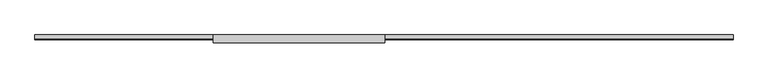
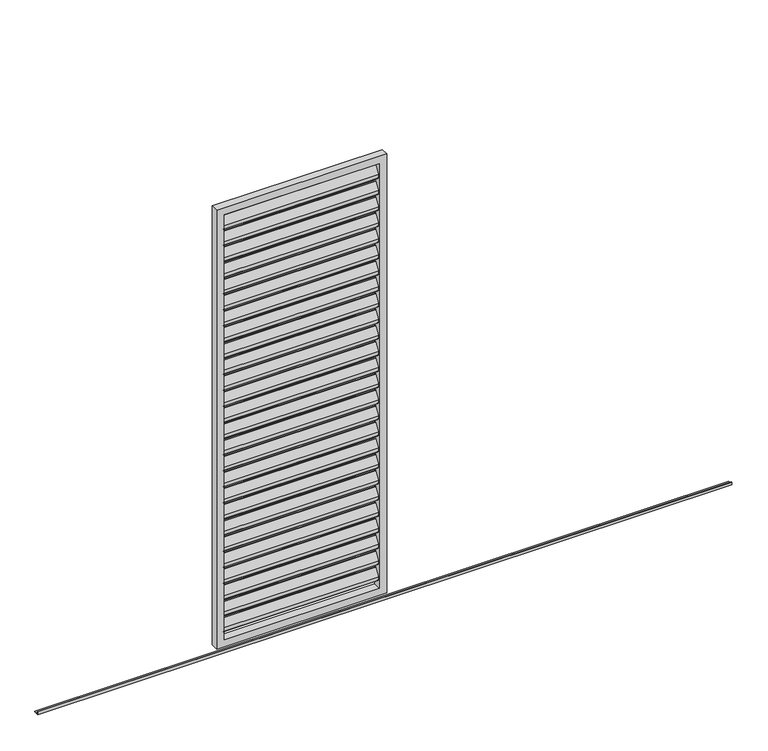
"""IFC4 building model written with IfcOpenShell, lengths in millimetres: proxy geometry, Renson_Amani_Loggia_Paro_Aluminium_Sliding : Renson_Amani_Loggia_Paro_Aluminium_Sliding."""

import ifcopenshell
import ifcopenshell.guid

model = None  # the IFC model being written
_history = None  # IfcOwnerHistory: only IFC2X3 demands one
_inside = {}  # id of a spatial element -> (the spatial element, [elements in it])
_under = {}  # id of a project, library or spatial element -> (it, [spatial elements below it])
_declared = {}  # id of a project -> (the project, [libraries it declares])
_typed = {}  # id of a type object -> (the type object, [elements of that type])
_made_of = {}  # id of a material, layer set ... -> (it, [elements and type objects made of it])


def new_model(schema):
    """Start an empty IFC model of exactly this schema.

    Asked for "IFC4X3", IfcOpenShell would pick the latest addendum, in which some entities
    have other attributes; the version numbers below select the first issue.
    IFC2X3 requires an IfcOwnerHistory on every rooted entity: one is made here for all.
    """
    global model, _history
    if schema == "IFC4X3":
        model = ifcopenshell.file(schema_version=(4, 3, 0, 0))
    else:
        model = ifcopenshell.file(schema=schema)
    _inside.clear()
    _under.clear()
    _declared.clear()
    _typed.clear()
    _made_of.clear()
    _history = None
    if model.schema == "IFC2X3":
        org = make("IfcOrganization", Name="unknown")
        user = make(
            "IfcPersonAndOrganization",
            ThePerson=make("IfcPerson", FamilyName="unknown"),
            TheOrganization=org,
        )
        app = make(
            "IfcApplication",
            ApplicationDeveloper=org,
            Version="unknown",
            ApplicationFullName="unknown",
            ApplicationIdentifier="unknown",
        )
        _history = make(
            "IfcOwnerHistory",
            OwningUser=user,
            OwningApplication=app,
            ChangeAction="ADDED",
            CreationDate=0,
        )
    return model


def make(cls, **values):
    """One entity of the class cls with the attributes given. An attribute that is None is left unset."""
    return model.create_entity(
        cls, **{name: value for name, value in values.items() if value is not None}
    )


def rooted(cls, **values):
    """An entity with a GlobalId (a new one), such as an element, a storey or a relation."""
    return make(cls, GlobalId=ifcopenshell.guid.new(), OwnerHistory=_history, **values)


def si_unit(unit_type, name, prefix=None):
    """IfcSIUnit, for example si_unit("LENGTHUNIT", "METRE", prefix="MILLI")."""
    return make("IfcSIUnit", UnitType=unit_type, Prefix=prefix, Name=name)


def assignment(units):
    """IfcUnitAssignment: the units of a project."""
    return None if units is None else make("IfcUnitAssignment", Units=units)


def point(xyz):
    """IfcCartesianPoint."""
    return None if xyz is None else make("IfcCartesianPoint", Coordinates=xyz)


def direction(xyz):
    """IfcDirection."""
    return None if xyz is None else make("IfcDirection", DirectionRatios=xyz)


def frame(location, z_axis=None, x_axis=None):
    """IfcAxis2Placement3D, a coordinate frame: its origin and axes. An axis left out is left unset."""
    return make(
        "IfcAxis2Placement3D",
        Location=point(location),
        Axis=direction(z_axis),
        RefDirection=direction(x_axis),
    )


def frame_2d(location, x_axis=None):
    """IfcAxis2Placement2D, a coordinate frame in the plane: its origin and x axis."""
    return make(
        "IfcAxis2Placement2D", Location=point(location), RefDirection=direction(x_axis)
    )


def origin():
    """The frame at (0, 0, 0) with its axes left unset."""
    return frame((0.0, 0.0, 0.0))


def place(relative_to, where):
    """IfcLocalPlacement: puts the frame where relative to a parent placement (None: the world)."""
    return make(
        "IfcLocalPlacement", PlacementRelTo=relative_to, RelativePlacement=where
    )


def context(
    kind, dimensions, precision=None, world=None, true_north=None, identifier=None
):
    """IfcGeometricRepresentationContext, for example the 3D "Model" context."""
    return make(
        "IfcGeometricRepresentationContext",
        ContextIdentifier=identifier,
        ContextType=kind,
        CoordinateSpaceDimension=dimensions,
        Precision=precision,
        WorldCoordinateSystem=world,
        TrueNorth=true_north,
    )


def project(units=None, contexts=None):
    """IfcProject with its units and contexts."""
    return rooted(
        "IfcProject",
        Name="project",
        RepresentationContexts=contexts,
        UnitsInContext=assignment(units),
    )


def spatial(cls, under=None, at=None, **own):
    """A site, building, storey or space (cls), placed at a placement, below another one or the project."""
    s = rooted(cls, ObjectPlacement=at, **own)
    if under is not None:
        _under.setdefault(under.id(), (under, []))[1].append(s)
    return s


def polyline(points):
    """IfcPolyline through the points."""
    return make("IfcPolyline", Points=[point(p) for p in points])


def circle_curve(where, radius):
    """IfcCircle in the frame where."""
    return make("IfcCircle", Position=where, Radius=radius)


def trimmed(basis, trim1, trim2, sense, master):
    """IfcTrimmedCurve: the piece of a basis curve between two trims."""
    return make(
        "IfcTrimmedCurve",
        BasisCurve=basis,
        Trim1=trim1,
        Trim2=trim2,
        SenseAgreement=sense,
        MasterRepresentation=master,
    )


def segment(curve, same_sense, transition):
    """IfcCompositeCurveSegment."""
    return make(
        "IfcCompositeCurveSegment",
        Transition=transition,
        SameSense=same_sense,
        ParentCurve=curve,
    )


def composite_curve(segments, self_intersect=None):
    """IfcCompositeCurve: segments joined end to end."""
    return make("IfcCompositeCurve", Segments=segments, SelfIntersect=self_intersect)


def outline(outer, holes=None, kind="AREA"):
    """IfcArbitraryClosedProfileDef: a profile drawn as a closed curve; with holes, ...WithVoids."""
    if holes is None:
        return make("IfcArbitraryClosedProfileDef", ProfileType=kind, OuterCurve=outer)
    return make(
        "IfcArbitraryProfileDefWithVoids",
        ProfileType=kind,
        OuterCurve=outer,
        InnerCurves=holes,
    )


def extrude(swept, where, along, depth):
    """IfcExtrudedAreaSolid: the profile swept, set in the frame where, extruded along a direction by depth."""
    return make(
        "IfcExtrudedAreaSolid",
        SweptArea=swept,
        Position=where,
        ExtrudedDirection=direction(along),
        Depth=depth,
    )


def shape(context_of_items, identifier, shape_type, items):
    """IfcShapeRepresentation: the items that make up one representation, for example the "Body"."""
    return make(
        "IfcShapeRepresentation",
        ContextOfItems=context_of_items,
        RepresentationIdentifier=identifier,
        RepresentationType=shape_type,
        Items=items,
    )


def source(mapping_origin, context_of_items, identifier, shape_type, items):
    """IfcRepresentationMap: a shape defined once, which mapped items show again and again."""
    return make(
        "IfcRepresentationMap",
        MappingOrigin=mapping_origin,
        MappedRepresentation=shape(context_of_items, identifier, shape_type, items),
    )


def transform(
    local_origin,
    x_axis=None,
    y_axis=None,
    z_axis=None,
    scale=None,
    scale2=None,
    scale3=None,
    uniform=True,
):
    """IfcCartesianTransformationOperator3D, or its non-uniform kind. x_axis, y_axis, z_axis: its Axis1, 2, 3."""
    if uniform:
        return make(
            "IfcCartesianTransformationOperator3D",
            Axis1=direction(x_axis),
            Axis2=direction(y_axis),
            LocalOrigin=point(local_origin),
            Scale=scale,
            Axis3=direction(z_axis),
        )
    return make(
        "IfcCartesianTransformationOperator3DnonUniform",
        Axis1=direction(x_axis),
        Axis2=direction(y_axis),
        LocalOrigin=point(local_origin),
        Scale=scale,
        Axis3=direction(z_axis),
        Scale2=scale2,
        Scale3=scale3,
    )


def mapped(mapping_source, mapping_target):
    """IfcMappedItem: shows the shape of a source again, moved by a transform."""
    return make(
        "IfcMappedItem", MappingSource=mapping_source, MappingTarget=mapping_target
    )


def made_of(thing, what):
    """Note that an element or type object is made of a material, layer set ...; save() writes the relation."""
    if what is not None:
        _made_of.setdefault(what.id(), (what, []))[1].append(thing)
    return thing


def element(
    cls,
    number,
    at=None,
    inside=None,
    cuts=None,
    type_object=None,
    material=None,
    context=None,
    identifier="Body",
    shape_type=None,
    held_by="IfcProductDefinitionShape",
    body=None,
    shapes=None,
    **own,
):
    """One element of the class cls, such as IfcWall. Its Tag is "e" and its number.

    at: its placement. inside: the storey or other place that contains it. cuts: it is an
    opening in that element (IfcRelVoidsElement). A single representation is given by context,
    identifier, shape_type and body (its items); several are given by shapes. held_by: the class
    of the entity that holds the representations. save() writes the other relations.
    """
    e = rooted(cls, Tag="e%d" % number, ObjectPlacement=at, **own)
    if body is not None:
        shapes = [shape(context, identifier, shape_type, body)]
    if shapes is not None:
        e.Representation = make(held_by, Representations=shapes)
    if inside is not None:
        _inside.setdefault(inside.id(), (inside, []))[1].append(e)
    if cuts is not None:
        rooted(
            "IfcRelVoidsElement", RelatingBuildingElement=cuts, RelatedOpeningElement=e
        )
    if type_object is not None:
        _typed.setdefault(type_object.id(), (type_object, []))[1].append(e)
    return made_of(e, material)


def aggregate(whole, parts):
    """IfcRelAggregates: a whole, such as a stair, and the parts it consists of."""
    return rooted("IfcRelAggregates", RelatingObject=whole, RelatedObjects=parts)


def save(model, path):
    """Write the relations noted so far, then the file.

    IfcRelAggregates (storeys below a building ...), IfcRelContainedInSpatialStructure (elements
    in a storey), IfcRelDefinesByType, IfcRelAssociatesMaterial and IfcRelDeclares: one each for
    every whole, place, type object, material and project.
    """
    for whole, parts in _under.values():
        aggregate(whole, parts)
    for where, things in _inside.values():
        rooted(
            "IfcRelContainedInSpatialStructure",
            RelatedElements=things,
            RelatingStructure=where,
        )
    for kind, things in _typed.values():
        rooted("IfcRelDefinesByType", RelatedObjects=things, RelatingType=kind)
    for what, things in _made_of.values():
        rooted("IfcRelAssociatesMaterial", RelatedObjects=things, RelatingMaterial=what)
    for by, libraries in _declared.values():
        rooted("IfcRelDeclares", RelatingContext=by, RelatedDefinitions=libraries)
    model.write(path)


def generic_models_31c1c7fc(model_context):
    return source(origin(), model_context, "Body", "SweptSolid", [
        extrude(outline(composite_curve([segment(trimmed(circle_curve(frame_2d((12.6675921, 2432.6587719)), 3.0), [point((10.1515804, 2434.292689))], [point((15.6675921, 2432.6587719))], False, "CARTESIAN"), True, "CONTINUOUS"), segment(polyline([(15.6675921, 2432.6587719), (15.6675921, 2414.2979873)]), True, "CONTINUOUS"), segment(trimmed(circle_curve(frame_2d((12.6675921, 2414.2979873)), 3.0), [point((15.6675921, 2414.2979873))], [point((15.1836038, 2412.6640702))], False, "CARTESIAN"), True, "CONTINUOUS"), segment(polyline([(15.1836038, 2412.6640702), (-8.8163962, 2375.707311)]), True, "CONTINUOUS"), segment(trimmed(circle_curve(frame_2d((-11.3324079, 2377.3412281)), 3.0), [point((-8.8163962, 2375.707311))], [point((-14.3324079, 2377.3412281))], False, "CARTESIAN"), True, "CONTINUOUS"), segment(polyline([(-14.3324079, 2377.3412281), (-14.3324079, 2396.5906532), (10.1515804, 2434.292689)]), True, "CONTINUOUS")], self_intersect=False)), frame((-410.0, 0.0, 0.0), z_axis=(1.0, 0.0, 0.0), x_axis=(0.0, 1.0, 0.0)), (0.0, 0.0, 1.0), 820.0),
        extrude(outline(composite_curve([segment(trimmed(circle_curve(frame_2d((12.6675921, 2342.6587719)), 3.0), [point((10.1515804, 2344.292689))], [point((15.6675921, 2342.6587719))], False, "CARTESIAN"), True, "CONTINUOUS"), segment(polyline([(15.6675921, 2342.6587719), (15.6675921, 2324.2979873)]), True, "CONTINUOUS"), segment(trimmed(circle_curve(frame_2d((12.6675921, 2324.2979873)), 3.0), [point((15.6675921, 2324.2979873))], [point((15.1836038, 2322.6640702))], False, "CARTESIAN"), True, "CONTINUOUS"), segment(polyline([(15.1836038, 2322.6640702), (-8.8163962, 2285.707311)]), True, "CONTINUOUS"), segment(trimmed(circle_curve(frame_2d((-11.3324079, 2287.3412281)), 3.0), [point((-8.8163962, 2285.707311))], [point((-14.3324079, 2287.3412281))], False, "CARTESIAN"), True, "CONTINUOUS"), segment(polyline([(-14.3324079, 2287.3412281), (-14.3324079, 2306.5906532), (10.1515804, 2344.292689)]), True, "CONTINUOUS")], self_intersect=False)), frame((-410.0, 0.0, 0.0), z_axis=(1.0, 0.0, 0.0), x_axis=(0.0, 1.0, 0.0)), (0.0, 0.0, 1.0), 820.0),
        extrude(outline(composite_curve([segment(trimmed(circle_curve(frame_2d((12.6675921, 2252.6587719)), 3.0), [point((10.1515804, 2254.292689))], [point((15.6675921, 2252.6587719))], False, "CARTESIAN"), True, "CONTINUOUS"), segment(polyline([(15.6675921, 2252.6587719), (15.6675921, 2234.2979873)]), True, "CONTINUOUS"), segment(trimmed(circle_curve(frame_2d((12.6675921, 2234.2979873)), 3.0), [point((15.6675921, 2234.2979873))], [point((15.1836038, 2232.6640702))], False, "CARTESIAN"), True, "CONTINUOUS"), segment(polyline([(15.1836038, 2232.6640702), (-8.8163962, 2195.707311)]), True, "CONTINUOUS"), segment(trimmed(circle_curve(frame_2d((-11.3324079, 2197.3412281)), 3.0), [point((-8.8163962, 2195.707311))], [point((-14.3324079, 2197.3412281))], False, "CARTESIAN"), True, "CONTINUOUS"), segment(polyline([(-14.3324079, 2197.3412281), (-14.3324079, 2216.5906532), (10.1515804, 2254.292689)]), True, "CONTINUOUS")], self_intersect=False)), frame((-410.0, 0.0, 0.0), z_axis=(1.0, 0.0, 0.0), x_axis=(0.0, 1.0, 0.0)), (0.0, 0.0, 1.0), 820.0),
        extrude(outline(composite_curve([segment(trimmed(circle_curve(frame_2d((12.6675921, 2162.6587719)), 3.0), [point((10.1515804, 2164.292689))], [point((15.6675921, 2162.6587719))], False, "CARTESIAN"), True, "CONTINUOUS"), segment(polyline([(15.6675921, 2162.6587719), (15.6675921, 2144.2979873)]), True, "CONTINUOUS"), segment(trimmed(circle_curve(frame_2d((12.6675921, 2144.2979873)), 3.0), [point((15.6675921, 2144.2979873))], [point((15.1836038, 2142.6640702))], False, "CARTESIAN"), True, "CONTINUOUS"), segment(polyline([(15.1836038, 2142.6640702), (-8.8163962, 2105.707311)]), True, "CONTINUOUS"), segment(trimmed(circle_curve(frame_2d((-11.3324079, 2107.3412281)), 3.0), [point((-8.8163962, 2105.707311))], [point((-14.3324079, 2107.3412281))], False, "CARTESIAN"), True, "CONTINUOUS"), segment(polyline([(-14.3324079, 2107.3412281), (-14.3324079, 2126.5906532), (10.1515804, 2164.292689)]), True, "CONTINUOUS")], self_intersect=False)), frame((-410.0, 0.0, 0.0), z_axis=(1.0, 0.0, 0.0), x_axis=(0.0, 1.0, 0.0)), (0.0, 0.0, 1.0), 820.0),
        extrude(outline(composite_curve([segment(trimmed(circle_curve(frame_2d((12.6675921, 2072.6587719)), 3.0), [point((10.1515804, 2074.292689))], [point((15.6675921, 2072.6587719))], False, "CARTESIAN"), True, "CONTINUOUS"), segment(polyline([(15.6675921, 2072.6587719), (15.6675921, 2054.2979873)]), True, "CONTINUOUS"), segment(trimmed(circle_curve(frame_2d((12.6675921, 2054.2979873)), 3.0), [point((15.6675921, 2054.2979873))], [point((15.1836038, 2052.6640702))], False, "CARTESIAN"), True, "CONTINUOUS"), segment(polyline([(15.1836038, 2052.6640702), (-8.8163962, 2015.707311)]), True, "CONTINUOUS"), segment(trimmed(circle_curve(frame_2d((-11.3324079, 2017.3412281)), 3.0), [point((-8.8163962, 2015.707311))], [point((-14.3324079, 2017.3412281))], False, "CARTESIAN"), True, "CONTINUOUS"), segment(polyline([(-14.3324079, 2017.3412281), (-14.3324079, 2036.5906532), (10.1515804, 2074.292689)]), True, "CONTINUOUS")], self_intersect=False)), frame((-410.0, 0.0, 0.0), z_axis=(1.0, 0.0, 0.0), x_axis=(0.0, 1.0, 0.0)), (0.0, 0.0, 1.0), 820.0),
        extrude(outline(composite_curve([segment(trimmed(circle_curve(frame_2d((12.6675921, 1982.6587719)), 3.0), [point((10.1515804, 1984.292689))], [point((15.6675921, 1982.6587719))], False, "CARTESIAN"), True, "CONTINUOUS"), segment(polyline([(15.6675921, 1982.6587719), (15.6675921, 1964.2979873)]), True, "CONTINUOUS"), segment(trimmed(circle_curve(frame_2d((12.6675921, 1964.2979873)), 3.0), [point((15.6675921, 1964.2979873))], [point((15.1836038, 1962.6640702))], False, "CARTESIAN"), True, "CONTINUOUS"), segment(polyline([(15.1836038, 1962.6640702), (-8.8163962, 1925.707311)]), True, "CONTINUOUS"), segment(trimmed(circle_curve(frame_2d((-11.3324079, 1927.3412281)), 3.0), [point((-8.8163962, 1925.707311))], [point((-14.3324079, 1927.3412281))], False, "CARTESIAN"), True, "CONTINUOUS"), segment(polyline([(-14.3324079, 1927.3412281), (-14.3324079, 1946.5906532), (10.1515804, 1984.292689)]), True, "CONTINUOUS")], self_intersect=False)), frame((-410.0, 0.0, 0.0), z_axis=(1.0, 0.0, 0.0), x_axis=(0.0, 1.0, 0.0)), (0.0, 0.0, 1.0), 820.0),
        extrude(outline(composite_curve([segment(trimmed(circle_curve(frame_2d((12.6675921, 1892.6587719)), 3.0), [point((10.1515804, 1894.292689))], [point((15.6675921, 1892.6587719))], False, "CARTESIAN"), True, "CONTINUOUS"), segment(polyline([(15.6675921, 1892.6587719), (15.6675921, 1874.2979873)]), True, "CONTINUOUS"), segment(trimmed(circle_curve(frame_2d((12.6675921, 1874.2979873)), 3.0), [point((15.6675921, 1874.2979873))], [point((15.1836038, 1872.6640702))], False, "CARTESIAN"), True, "CONTINUOUS"), segment(polyline([(15.1836038, 1872.6640702), (-8.8163962, 1835.707311)]), True, "CONTINUOUS"), segment(trimmed(circle_curve(frame_2d((-11.3324079, 1837.3412281)), 3.0), [point((-8.8163962, 1835.707311))], [point((-14.3324079, 1837.3412281))], False, "CARTESIAN"), True, "CONTINUOUS"), segment(polyline([(-14.3324079, 1837.3412281), (-14.3324079, 1856.5906532), (10.1515804, 1894.292689)]), True, "CONTINUOUS")], self_intersect=False)), frame((-410.0, 0.0, 0.0), z_axis=(1.0, 0.0, 0.0), x_axis=(0.0, 1.0, 0.0)), (0.0, 0.0, 1.0), 820.0),
        extrude(outline(composite_curve([segment(trimmed(circle_curve(frame_2d((12.6675921, 1802.6587719)), 3.0), [point((10.1515804, 1804.292689))], [point((15.6675921, 1802.6587719))], False, "CARTESIAN"), True, "CONTINUOUS"), segment(polyline([(15.6675921, 1802.6587719), (15.6675921, 1784.2979873)]), True, "CONTINUOUS"), segment(trimmed(circle_curve(frame_2d((12.6675921, 1784.2979873)), 3.0), [point((15.6675921, 1784.2979873))], [point((15.1836038, 1782.6640702))], False, "CARTESIAN"), True, "CONTINUOUS"), segment(polyline([(15.1836038, 1782.6640702), (-8.8163962, 1745.707311)]), True, "CONTINUOUS"), segment(trimmed(circle_curve(frame_2d((-11.3324079, 1747.3412281)), 3.0), [point((-8.8163962, 1745.707311))], [point((-14.3324079, 1747.3412281))], False, "CARTESIAN"), True, "CONTINUOUS"), segment(polyline([(-14.3324079, 1747.3412281), (-14.3324079, 1766.5906532), (10.1515804, 1804.292689)]), True, "CONTINUOUS")], self_intersect=False)), frame((-410.0, 0.0, 0.0), z_axis=(1.0, 0.0, 0.0), x_axis=(0.0, 1.0, 0.0)), (0.0, 0.0, 1.0), 820.0),
        extrude(outline(composite_curve([segment(trimmed(circle_curve(frame_2d((12.6675921, 1712.6587719)), 3.0), [point((10.1515804, 1714.292689))], [point((15.6675921, 1712.6587719))], False, "CARTESIAN"), True, "CONTINUOUS"), segment(polyline([(15.6675921, 1712.6587719), (15.6675921, 1694.2979873)]), True, "CONTINUOUS"), segment(trimmed(circle_curve(frame_2d((12.6675921, 1694.2979873)), 3.0), [point((15.6675921, 1694.2979873))], [point((15.1836038, 1692.6640702))], False, "CARTESIAN"), True, "CONTINUOUS"), segment(polyline([(15.1836038, 1692.6640702), (-8.8163962, 1655.707311)]), True, "CONTINUOUS"), segment(trimmed(circle_curve(frame_2d((-11.3324079, 1657.3412281)), 3.0), [point((-8.8163962, 1655.707311))], [point((-14.3324079, 1657.3412281))], False, "CARTESIAN"), True, "CONTINUOUS"), segment(polyline([(-14.3324079, 1657.3412281), (-14.3324079, 1676.5906532), (10.1515804, 1714.292689)]), True, "CONTINUOUS")], self_intersect=False)), frame((-410.0, 0.0, 0.0), z_axis=(1.0, 0.0, 0.0), x_axis=(0.0, 1.0, 0.0)), (0.0, 0.0, 1.0), 820.0),
        extrude(outline(composite_curve([segment(trimmed(circle_curve(frame_2d((12.6675921, 1622.6587719)), 3.0), [point((10.1515804, 1624.292689))], [point((15.6675921, 1622.6587719))], False, "CARTESIAN"), True, "CONTINUOUS"), segment(polyline([(15.6675921, 1622.6587719), (15.6675921, 1604.2979873)]), True, "CONTINUOUS"), segment(trimmed(circle_curve(frame_2d((12.6675921, 1604.2979873)), 3.0), [point((15.6675921, 1604.2979873))], [point((15.1836038, 1602.6640702))], False, "CARTESIAN"), True, "CONTINUOUS"), segment(polyline([(15.1836038, 1602.6640702), (-8.8163962, 1565.707311)]), True, "CONTINUOUS"), segment(trimmed(circle_curve(frame_2d((-11.3324079, 1567.3412281)), 3.0), [point((-8.8163962, 1565.707311))], [point((-14.3324079, 1567.3412281))], False, "CARTESIAN"), True, "CONTINUOUS"), segment(polyline([(-14.3324079, 1567.3412281), (-14.3324079, 1586.5906532), (10.1515804, 1624.292689)]), True, "CONTINUOUS")], self_intersect=False)), frame((-410.0, 0.0, 0.0), z_axis=(1.0, 0.0, 0.0), x_axis=(0.0, 1.0, 0.0)), (0.0, 0.0, 1.0), 820.0),
        extrude(outline(composite_curve([segment(trimmed(circle_curve(frame_2d((12.6675921, 1532.6587719)), 3.0), [point((10.1515804, 1534.292689))], [point((15.6675921, 1532.6587719))], False, "CARTESIAN"), True, "CONTINUOUS"), segment(polyline([(15.6675921, 1532.6587719), (15.6675921, 1514.2979873)]), True, "CONTINUOUS"), segment(trimmed(circle_curve(frame_2d((12.6675921, 1514.2979873)), 3.0), [point((15.6675921, 1514.2979873))], [point((15.1836038, 1512.6640702))], False, "CARTESIAN"), True, "CONTINUOUS"), segment(polyline([(15.1836038, 1512.6640702), (-8.8163962, 1475.707311)]), True, "CONTINUOUS"), segment(trimmed(circle_curve(frame_2d((-11.3324079, 1477.3412281)), 3.0), [point((-8.8163962, 1475.707311))], [point((-14.3324079, 1477.3412281))], False, "CARTESIAN"), True, "CONTINUOUS"), segment(polyline([(-14.3324079, 1477.3412281), (-14.3324079, 1496.5906532), (10.1515804, 1534.292689)]), True, "CONTINUOUS")], self_intersect=False)), frame((-410.0, 0.0, 0.0), z_axis=(1.0, 0.0, 0.0), x_axis=(0.0, 1.0, 0.0)), (0.0, 0.0, 1.0), 820.0),
        extrude(outline(composite_curve([segment(trimmed(circle_curve(frame_2d((12.6675921, 1442.6587719)), 3.0), [point((10.1515804, 1444.292689))], [point((15.6675921, 1442.6587719))], False, "CARTESIAN"), True, "CONTINUOUS"), segment(polyline([(15.6675921, 1442.6587719), (15.6675921, 1424.2979873)]), True, "CONTINUOUS"), segment(trimmed(circle_curve(frame_2d((12.6675921, 1424.2979873)), 3.0), [point((15.6675921, 1424.2979873))], [point((15.1836038, 1422.6640702))], False, "CARTESIAN"), True, "CONTINUOUS"), segment(polyline([(15.1836038, 1422.6640702), (-8.8163962, 1385.707311)]), True, "CONTINUOUS"), segment(trimmed(circle_curve(frame_2d((-11.3324079, 1387.3412281)), 3.0), [point((-8.8163962, 1385.707311))], [point((-14.3324079, 1387.3412281))], False, "CARTESIAN"), True, "CONTINUOUS"), segment(polyline([(-14.3324079, 1387.3412281), (-14.3324079, 1406.5906532), (10.1515804, 1444.292689)]), True, "CONTINUOUS")], self_intersect=False)), frame((-410.0, 0.0, 0.0), z_axis=(1.0, 0.0, 0.0), x_axis=(0.0, 1.0, 0.0)), (0.0, 0.0, 1.0), 820.0),
        extrude(outline(composite_curve([segment(trimmed(circle_curve(frame_2d((12.6675921, 1352.6587719)), 3.0), [point((10.1515804, 1354.292689))], [point((15.6675921, 1352.6587719))], False, "CARTESIAN"), True, "CONTINUOUS"), segment(polyline([(15.6675921, 1352.6587719), (15.6675921, 1334.2979873)]), True, "CONTINUOUS"), segment(trimmed(circle_curve(frame_2d((12.6675921, 1334.2979873)), 3.0), [point((15.6675921, 1334.2979873))], [point((15.1836038, 1332.6640702))], False, "CARTESIAN"), True, "CONTINUOUS"), segment(polyline([(15.1836038, 1332.6640702), (-8.8163962, 1295.707311)]), True, "CONTINUOUS"), segment(trimmed(circle_curve(frame_2d((-11.3324079, 1297.3412281)), 3.0), [point((-8.8163962, 1295.707311))], [point((-14.3324079, 1297.3412281))], False, "CARTESIAN"), True, "CONTINUOUS"), segment(polyline([(-14.3324079, 1297.3412281), (-14.3324079, 1316.5906532), (10.1515804, 1354.292689)]), True, "CONTINUOUS")], self_intersect=False)), frame((-410.0, 0.0, 0.0), z_axis=(1.0, 0.0, 0.0), x_axis=(0.0, 1.0, 0.0)), (0.0, 0.0, 1.0), 820.0),
        extrude(outline(composite_curve([segment(trimmed(circle_curve(frame_2d((12.6675921, 1262.6587719)), 3.0), [point((10.1515804, 1264.292689))], [point((15.6675921, 1262.6587719))], False, "CARTESIAN"), True, "CONTINUOUS"), segment(polyline([(15.6675921, 1262.6587719), (15.6675921, 1244.2979873)]), True, "CONTINUOUS"), segment(trimmed(circle_curve(frame_2d((12.6675921, 1244.2979873)), 3.0), [point((15.6675921, 1244.2979873))], [point((15.1836038, 1242.6640702))], False, "CARTESIAN"), True, "CONTINUOUS"), segment(polyline([(15.1836038, 1242.6640702), (-8.8163962, 1205.707311)]), True, "CONTINUOUS"), segment(trimmed(circle_curve(frame_2d((-11.3324079, 1207.3412281)), 3.0), [point((-8.8163962, 1205.707311))], [point((-14.3324079, 1207.3412281))], False, "CARTESIAN"), True, "CONTINUOUS"), segment(polyline([(-14.3324079, 1207.3412281), (-14.3324079, 1226.5906532), (10.1515804, 1264.292689)]), True, "CONTINUOUS")], self_intersect=False)), frame((-410.0, 0.0, 0.0), z_axis=(1.0, 0.0, 0.0), x_axis=(0.0, 1.0, 0.0)), (0.0, 0.0, 1.0), 820.0),
        extrude(outline(composite_curve([segment(trimmed(circle_curve(frame_2d((12.6675921, 1172.6587719)), 3.0), [point((10.1515804, 1174.292689))], [point((15.6675921, 1172.6587719))], False, "CARTESIAN"), True, "CONTINUOUS"), segment(polyline([(15.6675921, 1172.6587719), (15.6675921, 1154.2979873)]), True, "CONTINUOUS"), segment(trimmed(circle_curve(frame_2d((12.6675921, 1154.2979873)), 3.0), [point((15.6675921, 1154.2979873))], [point((15.1836038, 1152.6640702))], False, "CARTESIAN"), True, "CONTINUOUS"), segment(polyline([(15.1836038, 1152.6640702), (-8.8163962, 1115.707311)]), True, "CONTINUOUS"), segment(trimmed(circle_curve(frame_2d((-11.3324079, 1117.3412281)), 3.0), [point((-8.8163962, 1115.707311))], [point((-14.3324079, 1117.3412281))], False, "CARTESIAN"), True, "CONTINUOUS"), segment(polyline([(-14.3324079, 1117.3412281), (-14.3324079, 1136.5906532), (10.1515804, 1174.292689)]), True, "CONTINUOUS")], self_intersect=False)), frame((-410.0, 0.0, 0.0), z_axis=(1.0, 0.0, 0.0), x_axis=(0.0, 1.0, 0.0)), (0.0, 0.0, 1.0), 820.0),
        extrude(outline(composite_curve([segment(trimmed(circle_curve(frame_2d((12.6675921, 1082.6587719)), 3.0), [point((10.1515804, 1084.292689))], [point((15.6675921, 1082.6587719))], False, "CARTESIAN"), True, "CONTINUOUS"), segment(polyline([(15.6675921, 1082.6587719), (15.6675921, 1064.2979873)]), True, "CONTINUOUS"), segment(trimmed(circle_curve(frame_2d((12.6675921, 1064.2979873)), 3.0), [point((15.6675921, 1064.2979873))], [point((15.1836038, 1062.6640702))], False, "CARTESIAN"), True, "CONTINUOUS"), segment(polyline([(15.1836038, 1062.6640702), (-8.8163962, 1025.707311)]), True, "CONTINUOUS"), segment(trimmed(circle_curve(frame_2d((-11.3324079, 1027.3412281)), 3.0), [point((-8.8163962, 1025.707311))], [point((-14.3324079, 1027.3412281))], False, "CARTESIAN"), True, "CONTINUOUS"), segment(polyline([(-14.3324079, 1027.3412281), (-14.3324079, 1046.5906532), (10.1515804, 1084.292689)]), True, "CONTINUOUS")], self_intersect=False)), frame((-410.0, 0.0, 0.0), z_axis=(1.0, 0.0, 0.0), x_axis=(0.0, 1.0, 0.0)), (0.0, 0.0, 1.0), 820.0),
        extrude(outline(composite_curve([segment(trimmed(circle_curve(frame_2d((12.6675921, 992.6587719)), 3.0), [point((10.1515804, 994.292689))], [point((15.6675921, 992.6587719))], False, "CARTESIAN"), True, "CONTINUOUS"), segment(polyline([(15.6675921, 992.6587719), (15.6675921, 974.2979873)]), True, "CONTINUOUS"), segment(trimmed(circle_curve(frame_2d((12.6675921, 974.2979873)), 3.0), [point((15.6675921, 974.2979873))], [point((15.1836038, 972.6640702))], False, "CARTESIAN"), True, "CONTINUOUS"), segment(polyline([(15.1836038, 972.6640702), (-8.8163962, 935.707311)]), True, "CONTINUOUS"), segment(trimmed(circle_curve(frame_2d((-11.3324079, 937.3412281)), 3.0), [point((-8.8163962, 935.707311))], [point((-14.3324079, 937.3412281))], False, "CARTESIAN"), True, "CONTINUOUS"), segment(polyline([(-14.3324079, 937.3412281), (-14.3324079, 956.5906532), (10.1515804, 994.292689)]), True, "CONTINUOUS")], self_intersect=False)), frame((-410.0, 0.0, 0.0), z_axis=(1.0, 0.0, 0.0), x_axis=(0.0, 1.0, 0.0)), (0.0, 0.0, 1.0), 820.0),
        extrude(outline(composite_curve([segment(trimmed(circle_curve(frame_2d((12.6675921, 902.6587719)), 3.0), [point((10.1515804, 904.292689))], [point((15.6675921, 902.6587719))], False, "CARTESIAN"), True, "CONTINUOUS"), segment(polyline([(15.6675921, 902.6587719), (15.6675921, 884.2979873)]), True, "CONTINUOUS"), segment(trimmed(circle_curve(frame_2d((12.6675921, 884.2979873)), 3.0), [point((15.6675921, 884.2979873))], [point((15.1836038, 882.6640702))], False, "CARTESIAN"), True, "CONTINUOUS"), segment(polyline([(15.1836038, 882.6640702), (-8.8163962, 845.707311)]), True, "CONTINUOUS"), segment(trimmed(circle_curve(frame_2d((-11.3324079, 847.3412281)), 3.0), [point((-8.8163962, 845.707311))], [point((-14.3324079, 847.3412281))], False, "CARTESIAN"), True, "CONTINUOUS"), segment(polyline([(-14.3324079, 847.3412281), (-14.3324079, 866.5906532), (10.1515804, 904.292689)]), True, "CONTINUOUS")], self_intersect=False)), frame((-410.0, 0.0, 0.0), z_axis=(1.0, 0.0, 0.0), x_axis=(0.0, 1.0, 0.0)), (0.0, 0.0, 1.0), 820.0),
        extrude(outline(composite_curve([segment(trimmed(circle_curve(frame_2d((12.6675921, 812.6587719)), 3.0), [point((10.1515804, 814.292689))], [point((15.6675921, 812.6587719))], False, "CARTESIAN"), True, "CONTINUOUS"), segment(polyline([(15.6675921, 812.6587719), (15.6675921, 794.2979873)]), True, "CONTINUOUS"), segment(trimmed(circle_curve(frame_2d((12.6675921, 794.2979873)), 3.0), [point((15.6675921, 794.2979873))], [point((15.1836038, 792.6640702))], False, "CARTESIAN"), True, "CONTINUOUS"), segment(polyline([(15.1836038, 792.6640702), (-8.8163962, 755.707311)]), True, "CONTINUOUS"), segment(trimmed(circle_curve(frame_2d((-11.3324079, 757.3412281)), 3.0), [point((-8.8163962, 755.707311))], [point((-14.3324079, 757.3412281))], False, "CARTESIAN"), True, "CONTINUOUS"), segment(polyline([(-14.3324079, 757.3412281), (-14.3324079, 776.5906532), (10.1515804, 814.292689)]), True, "CONTINUOUS")], self_intersect=False)), frame((-410.0, 0.0, 0.0), z_axis=(1.0, 0.0, 0.0), x_axis=(0.0, 1.0, 0.0)), (0.0, 0.0, 1.0), 820.0),
        extrude(outline(composite_curve([segment(trimmed(circle_curve(frame_2d((12.6675921, 722.6587719)), 3.0), [point((10.1515804, 724.292689))], [point((15.6675921, 722.6587719))], False, "CARTESIAN"), True, "CONTINUOUS"), segment(polyline([(15.6675921, 722.6587719), (15.6675921, 704.2979873)]), True, "CONTINUOUS"), segment(trimmed(circle_curve(frame_2d((12.6675921, 704.2979873)), 3.0), [point((15.6675921, 704.2979873))], [point((15.1836038, 702.6640702))], False, "CARTESIAN"), True, "CONTINUOUS"), segment(polyline([(15.1836038, 702.6640702), (-8.8163962, 665.707311)]), True, "CONTINUOUS"), segment(trimmed(circle_curve(frame_2d((-11.3324079, 667.3412281)), 3.0), [point((-8.8163962, 665.707311))], [point((-14.3324079, 667.3412281))], False, "CARTESIAN"), True, "CONTINUOUS"), segment(polyline([(-14.3324079, 667.3412281), (-14.3324079, 686.5906532), (10.1515804, 724.292689)]), True, "CONTINUOUS")], self_intersect=False)), frame((-410.0, 0.0, 0.0), z_axis=(1.0, 0.0, 0.0), x_axis=(0.0, 1.0, 0.0)), (0.0, 0.0, 1.0), 820.0),
        extrude(outline(composite_curve([segment(trimmed(circle_curve(frame_2d((12.6675921, 632.6587719)), 3.0), [point((10.1515804, 634.292689))], [point((15.6675921, 632.6587719))], False, "CARTESIAN"), True, "CONTINUOUS"), segment(polyline([(15.6675921, 632.6587719), (15.6675921, 614.2979873)]), True, "CONTINUOUS"), segment(trimmed(circle_curve(frame_2d((12.6675921, 614.2979873)), 3.0), [point((15.6675921, 614.2979873))], [point((15.1836038, 612.6640702))], False, "CARTESIAN"), True, "CONTINUOUS"), segment(polyline([(15.1836038, 612.6640702), (-8.8163962, 575.707311)]), True, "CONTINUOUS"), segment(trimmed(circle_curve(frame_2d((-11.3324079, 577.3412281)), 3.0), [point((-8.8163962, 575.707311))], [point((-14.3324079, 577.3412281))], False, "CARTESIAN"), True, "CONTINUOUS"), segment(polyline([(-14.3324079, 577.3412281), (-14.3324079, 596.5906532), (10.1515804, 634.292689)]), True, "CONTINUOUS")], self_intersect=False)), frame((-410.0, 0.0, 0.0), z_axis=(1.0, 0.0, 0.0), x_axis=(0.0, 1.0, 0.0)), (0.0, 0.0, 1.0), 820.0),
        extrude(outline(composite_curve([segment(trimmed(circle_curve(frame_2d((12.6675921, 542.6587719)), 3.0), [point((10.1515804, 544.292689))], [point((15.6675921, 542.6587719))], False, "CARTESIAN"), True, "CONTINUOUS"), segment(polyline([(15.6675921, 542.6587719), (15.6675921, 524.2979873)]), True, "CONTINUOUS"), segment(trimmed(circle_curve(frame_2d((12.6675921, 524.2979873)), 3.0), [point((15.6675921, 524.2979873))], [point((15.1836038, 522.6640702))], False, "CARTESIAN"), True, "CONTINUOUS"), segment(polyline([(15.1836038, 522.6640702), (-8.8163962, 485.707311)]), True, "CONTINUOUS"), segment(trimmed(circle_curve(frame_2d((-11.3324079, 487.3412281)), 3.0), [point((-8.8163962, 485.707311))], [point((-14.3324079, 487.3412281))], False, "CARTESIAN"), True, "CONTINUOUS"), segment(polyline([(-14.3324079, 487.3412281), (-14.3324079, 506.5906532), (10.1515804, 544.292689)]), True, "CONTINUOUS")], self_intersect=False)), frame((-410.0, 0.0, 0.0), z_axis=(1.0, 0.0, 0.0), x_axis=(0.0, 1.0, 0.0)), (0.0, 0.0, 1.0), 820.0),
        extrude(outline(composite_curve([segment(trimmed(circle_curve(frame_2d((12.6675921, 452.6587719)), 3.0), [point((10.1515804, 454.292689))], [point((15.6675921, 452.6587719))], False, "CARTESIAN"), True, "CONTINUOUS"), segment(polyline([(15.6675921, 452.6587719), (15.6675921, 434.2979873)]), True, "CONTINUOUS"), segment(trimmed(circle_curve(frame_2d((12.6675921, 434.2979873)), 3.0), [point((15.6675921, 434.2979873))], [point((15.1836038, 432.6640702))], False, "CARTESIAN"), True, "CONTINUOUS"), segment(polyline([(15.1836038, 432.6640702), (-8.8163962, 395.707311)]), True, "CONTINUOUS"), segment(trimmed(circle_curve(frame_2d((-11.3324079, 397.3412281)), 3.0), [point((-8.8163962, 395.707311))], [point((-14.3324079, 397.3412281))], False, "CARTESIAN"), True, "CONTINUOUS"), segment(polyline([(-14.3324079, 397.3412281), (-14.3324079, 416.5906532), (10.1515804, 454.292689)]), True, "CONTINUOUS")], self_intersect=False)), frame((-410.0, 0.0, 0.0), z_axis=(1.0, 0.0, 0.0), x_axis=(0.0, 1.0, 0.0)), (0.0, 0.0, 1.0), 820.0),
        extrude(outline(composite_curve([segment(trimmed(circle_curve(frame_2d((12.6675921, 362.6587719)), 3.0), [point((10.1515804, 364.292689))], [point((15.6675921, 362.6587719))], False, "CARTESIAN"), True, "CONTINUOUS"), segment(polyline([(15.6675921, 362.6587719), (15.6675921, 344.2979873)]), True, "CONTINUOUS"), segment(trimmed(circle_curve(frame_2d((12.6675921, 344.2979873)), 3.0), [point((15.6675921, 344.2979873))], [point((15.1836038, 342.6640702))], False, "CARTESIAN"), True, "CONTINUOUS"), segment(polyline([(15.1836038, 342.6640702), (-8.8163962, 305.707311)]), True, "CONTINUOUS"), segment(trimmed(circle_curve(frame_2d((-11.3324079, 307.3412281)), 3.0), [point((-8.8163962, 305.707311))], [point((-14.3324079, 307.3412281))], False, "CARTESIAN"), True, "CONTINUOUS"), segment(polyline([(-14.3324079, 307.3412281), (-14.3324079, 326.5906532), (10.1515804, 364.292689)]), True, "CONTINUOUS")], self_intersect=False)), frame((-410.0, 0.0, 0.0), z_axis=(1.0, 0.0, 0.0), x_axis=(0.0, 1.0, 0.0)), (0.0, 0.0, 1.0), 820.0),
        extrude(outline(composite_curve([segment(trimmed(circle_curve(frame_2d((12.6675921, 272.6587719)), 3.0), [point((10.1515804, 274.292689))], [point((15.6675921, 272.6587719))], False, "CARTESIAN"), True, "CONTINUOUS"), segment(polyline([(15.6675921, 272.6587719), (15.6675921, 254.2979873)]), True, "CONTINUOUS"), segment(trimmed(circle_curve(frame_2d((12.6675921, 254.2979873)), 3.0), [point((15.6675921, 254.2979873))], [point((15.1836038, 252.6640702))], False, "CARTESIAN"), True, "CONTINUOUS"), segment(polyline([(15.1836038, 252.6640702), (-8.8163962, 215.707311)]), True, "CONTINUOUS"), segment(trimmed(circle_curve(frame_2d((-11.3324079, 217.3412281)), 3.0), [point((-8.8163962, 215.707311))], [point((-14.3324079, 217.3412281))], False, "CARTESIAN"), True, "CONTINUOUS"), segment(polyline([(-14.3324079, 217.3412281), (-14.3324079, 236.5906532), (10.1515804, 274.292689)]), True, "CONTINUOUS")], self_intersect=False)), frame((-410.0, 0.0, 0.0), z_axis=(1.0, 0.0, 0.0), x_axis=(0.0, 1.0, 0.0)), (0.0, 0.0, 1.0), 820.0),
        extrude(outline(composite_curve([segment(trimmed(circle_curve(frame_2d((12.6675921, 182.6587719)), 3.0), [point((10.1515804, 184.292689))], [point((15.6675921, 182.6587719))], False, "CARTESIAN"), True, "CONTINUOUS"), segment(polyline([(15.6675921, 182.6587719), (15.6675921, 164.2979873)]), True, "CONTINUOUS"), segment(trimmed(circle_curve(frame_2d((12.6675921, 164.2979873)), 3.0), [point((15.6675921, 164.2979873))], [point((15.1836038, 162.6640702))], False, "CARTESIAN"), True, "CONTINUOUS"), segment(polyline([(15.1836038, 162.6640702), (-8.8163962, 125.707311)]), True, "CONTINUOUS"), segment(trimmed(circle_curve(frame_2d((-11.3324079, 127.3412281)), 3.0), [point((-8.8163962, 125.707311))], [point((-14.3324079, 127.3412281))], False, "CARTESIAN"), True, "CONTINUOUS"), segment(polyline([(-14.3324079, 127.3412281), (-14.3324079, 146.5906532), (10.1515804, 184.292689)]), True, "CONTINUOUS")], self_intersect=False)), frame((-410.0, 0.0, 0.0), z_axis=(1.0, 0.0, 0.0), x_axis=(0.0, 1.0, 0.0)), (0.0, 0.0, 1.0), 820.0),
        extrude(outline(polyline([(-6.0, 15.0), (-3.0, 15.0), (-3.0, 3.0), (20.0, 3.0), (20.0, 0.0), (-6.0, 0.0), (-6.0, 15.0)])), frame((-1388.0510676, 0.0, 0.0), z_axis=(1.0, 0.0, 0.0), x_axis=(0.0, 1.0, 0.0)), (0.0, 0.0, 1.0), 3670.0),
        extrude(outline(polyline([(2500.0, -450.0), (45.0, -450.0), (45.0, 450.0), (2500.0, 450.0), (2500.0, -450.0)]), holes=[polyline([(2460.0, 410.0), (85.0, 410.0), (85.0, -410.0), (2460.0, -410.0), (2460.0, 410.0)])]), frame((0.0, -20.0, 0.0), z_axis=(0.0, 1.0, 0.0), x_axis=(0.0, 0.0, 1.0)), (0.0, 0.0, 1.0), 40.0),
    ])


if __name__ == "__main__":
    model = new_model("IFC4")
    model_context = context("Model", 3, world=origin())
    ifc_project = project(units=[si_unit("LENGTHUNIT", "METRE", prefix="MILLI")], contexts=[model_context])
    site = spatial("IfcSite", under=ifc_project)
    building = spatial("IfcBuilding", under=site)
    placement = place(None, origin())
    generic_models_shape = generic_models_31c1c7fc(model_context)
    element("IfcBuildingElementProxy", 1, Name="Renson_Amani_Loggia_Paro_Aluminium_Sliding : Renson_Amani_Loggia_Paro_Aluminium_Sliding", ObjectType="Renson_Amani_Loggia_Paro_Aluminium_Sliding : Renson_Amani_Loggia_Paro_Aluminium_Sliding", at=placement, inside=building, context=model_context, shape_type="MappedRepresentation", body=[
        mapped(generic_models_shape, transform((0.0, 0.0, 0.0), x_axis=(1.0, 0.0, 0.0), y_axis=(0.0, 1.0, 0.0), z_axis=(0.0, 0.0, 1.0))),
    ])
    save(model, "model.ifc")
